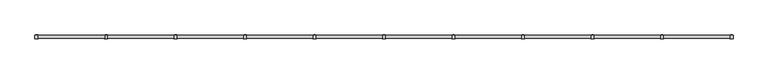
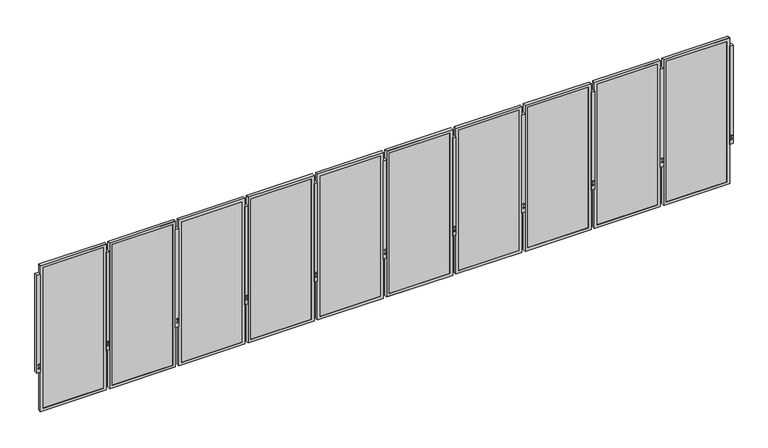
"""IFC4 building model written with IfcOpenShell, lengths in millimetres: railing geometry."""

from ifc_helpers import new_model, si_unit, frame, origin, place, context, project, spatial, polyline, outline, extrude, faceted_brep, source, transform, mapped, element, save


def railing_22421f22(model_context):
    return source(origin(), model_context, "Body", "SolidModel", [
        extrude(outline(polyline([(-3173.7233616, -34307.0313531), (-3122.9233616, -34307.0313531), (-3122.9233616, -34357.8313531), (-3173.7233616, -34357.8313531), (-3173.7233616, -34307.0313531)])), frame((0.0, 0.0, -609.6), z_axis=(0.0, 0.0, 1.0), x_axis=(1.0, 0.0, 0.0)), (0.0, 0.0, 1.0), 1524.0),
        extrude(outline(polyline([(-530.1129981, -3158.7439318), (-542.3802561, -3155.45693), (-545.667258, -3143.189672), (-536.6870019, -3134.2094158), (-524.4197439, -3137.4964177), (-521.132742, -3149.7636757), (-530.1129981, -3158.7439318)])), frame((0.0, -34359.6780409, 0.0), z_axis=(0.0, 1.0, 0.0), x_axis=(0.0, 0.0, 1.0)), (0.0, 0.0, 1.0), 54.4933756),
        extrude(outline(polyline([(-479.3129981, -3158.7439318), (-491.5802561, -3155.45693), (-494.867258, -3143.189672), (-485.8870019, -3134.2094158), (-473.6197439, -3137.4964177), (-470.332742, -3149.7636757), (-479.3129981, -3158.7439318)])), frame((0.0, -34359.6780409, 0.0), z_axis=(0.0, 1.0, 0.0), x_axis=(0.0, 0.0, 1.0)), (0.0, 0.0, 1.0), 54.4933756),
        faceted_brep([(-4140.127815, -34354.2245531, -1222.375), (-3171.752815, -34354.2245531, -1222.375), (-3171.752815, -34354.2245531, 1044.575), (-4140.127815, -34354.2245531, 1044.575), (-4098.852815, -34354.2245531, 1003.3), (-3213.027815, -34354.2245531, 1003.3), (-3213.027815, -34354.2245531, -1181.1), (-4098.852815, -34354.2245531, -1181.1), (-4098.852815, -34351.4813531, 1003.3), (-4098.852815, -34351.4813531, -1181.1), (-4140.127815, -34310.3512566, 1044.575), (-4140.127815, -34310.3512566, -1222.375), (-4136.952815, -34310.3512566, 1041.4), (-4136.952815, -34351.4813531, 1041.4), (-4136.952815, -34351.4813531, -1219.2), (-4136.952815, -34310.3512566, -1219.2), (-3213.027815, -34351.4813531, -1181.1), (-3171.752815, -34310.3512566, -1222.375), (-3174.927815, -34351.4813531, -1219.2), (-3174.927815, -34310.3512566, -1219.2), (-3213.027815, -34351.4813531, 1003.3), (-3171.752815, -34310.3512566, 1044.575), (-3174.927815, -34351.4813531, 1041.4), (-3174.927815, -34310.3512566, 1041.4)], [[[0, 1, 2, 3], [4, 5, 6, 7]], [[8, 4, 7, 9]], [[3, 10, 11, 0]], [[12, 13, 14, 15]], [[9, 7, 6, 16]], [[0, 11, 17, 1]], [[15, 14, 18, 19]], [[16, 6, 5, 20]], [[1, 17, 21, 2]], [[19, 18, 22, 23]], [[20, 5, 4, 8]], [[10, 21, 17, 11], [15, 19, 23, 12]], [[2, 21, 10, 3]], [[13, 22, 18, 14], [9, 16, 20, 8]], [[23, 22, 13, 12]]]),
        extrude(outline(polyline([(-4136.952815, -34341.9563531), (-3174.927815, -34341.9563531), (-3174.927815, -34351.4813531), (-4136.952815, -34351.4813531), (-4136.952815, -34341.9563531)])), frame((0.0, 0.0, -1219.2), z_axis=(0.0, 0.0, 1.0), x_axis=(1.0, 0.0, 0.0)), (0.0, 0.0, 1.0), 2260.6),
        extrude(outline(polyline([(-4191.3108616, -34307.0313531), (-4140.5108616, -34307.0313531), (-4140.5108616, -34357.8313531), (-4191.3108616, -34357.8313531), (-4191.3108616, -34307.0313531)])), frame((0.0, 0.0, -609.6), z_axis=(0.0, 0.0, 1.0), x_axis=(1.0, 0.0, 0.0)), (0.0, 0.0, 1.0), 1524.0),
        extrude(outline(polyline([(-530.1129981, -4176.3314318), (-542.3802561, -4173.04443), (-545.667258, -4160.777172), (-536.6870019, -4151.7969158), (-524.4197439, -4155.0839177), (-521.132742, -4167.3511757), (-530.1129981, -4176.3314318)])), frame((0.0, -34359.6780409, 0.0), z_axis=(0.0, 1.0, 0.0), x_axis=(0.0, 0.0, 1.0)), (0.0, 0.0, 1.0), 54.4933756),
        extrude(outline(polyline([(-479.3129981, -4176.3314318), (-491.5802561, -4173.04443), (-494.867258, -4160.777172), (-485.8870019, -4151.7969158), (-473.6197439, -4155.0839177), (-470.332742, -4167.3511757), (-479.3129981, -4176.3314318)])), frame((0.0, -34359.6780409, 0.0), z_axis=(0.0, 1.0, 0.0), x_axis=(0.0, 0.0, 1.0)), (0.0, 0.0, 1.0), 54.4933756),
        faceted_brep([(-5157.715315, -34354.2245531, -1222.375), (-4189.340315, -34354.2245531, -1222.375), (-4189.340315, -34354.2245531, 1044.575), (-5157.715315, -34354.2245531, 1044.575), (-5116.440315, -34354.2245531, 1003.3), (-4230.615315, -34354.2245531, 1003.3), (-4230.615315, -34354.2245531, -1181.1), (-5116.440315, -34354.2245531, -1181.1), (-5116.440315, -34351.4813531, 1003.3), (-5116.440315, -34351.4813531, -1181.1), (-5157.715315, -34310.3512566, 1044.575), (-5157.715315, -34310.3512566, -1222.375), (-5154.540315, -34310.3512566, 1041.4), (-5154.540315, -34351.4813531, 1041.4), (-5154.540315, -34351.4813531, -1219.2), (-5154.540315, -34310.3512566, -1219.2), (-4230.615315, -34351.4813531, -1181.1), (-4189.340315, -34310.3512566, -1222.375), (-4192.515315, -34351.4813531, -1219.2), (-4192.515315, -34310.3512566, -1219.2), (-4230.615315, -34351.4813531, 1003.3), (-4189.340315, -34310.3512566, 1044.575), (-4192.515315, -34351.4813531, 1041.4), (-4192.515315, -34310.3512566, 1041.4)], [[[0, 1, 2, 3], [4, 5, 6, 7]], [[8, 4, 7, 9]], [[3, 10, 11, 0]], [[12, 13, 14, 15]], [[9, 7, 6, 16]], [[0, 11, 17, 1]], [[15, 14, 18, 19]], [[16, 6, 5, 20]], [[1, 17, 21, 2]], [[19, 18, 22, 23]], [[20, 5, 4, 8]], [[10, 21, 17, 11], [15, 19, 23, 12]], [[2, 21, 10, 3]], [[13, 22, 18, 14], [9, 16, 20, 8]], [[23, 22, 13, 12]]]),
        extrude(outline(polyline([(-5154.540315, -34341.9563531), (-4192.515315, -34341.9563531), (-4192.515315, -34351.4813531), (-5154.540315, -34351.4813531), (-5154.540315, -34341.9563531)])), frame((0.0, 0.0, -1219.2), z_axis=(0.0, 0.0, 1.0), x_axis=(1.0, 0.0, 0.0)), (0.0, 0.0, 1.0), 2260.6),
        extrude(outline(polyline([(-5208.8983616, -34307.0313531), (-5158.0983616, -34307.0313531), (-5158.0983616, -34357.8313531), (-5208.8983616, -34357.8313531), (-5208.8983616, -34307.0313531)])), frame((0.0, 0.0, -609.6), z_axis=(0.0, 0.0, 1.0), x_axis=(1.0, 0.0, 0.0)), (0.0, 0.0, 1.0), 1524.0),
        extrude(outline(polyline([(-530.1129981, -5193.9189318), (-542.3802561, -5190.63193), (-545.667258, -5178.364672), (-536.6870019, -5169.3844158), (-524.4197439, -5172.6714177), (-521.132742, -5184.9386757), (-530.1129981, -5193.9189318)])), frame((0.0, -34359.6780409, 0.0), z_axis=(0.0, 1.0, 0.0), x_axis=(0.0, 0.0, 1.0)), (0.0, 0.0, 1.0), 54.4933756),
        extrude(outline(polyline([(-479.3129981, -5193.9189318), (-491.5802561, -5190.63193), (-494.867258, -5178.364672), (-485.8870019, -5169.3844158), (-473.6197439, -5172.6714177), (-470.332742, -5184.9386757), (-479.3129981, -5193.9189318)])), frame((0.0, -34359.6780409, 0.0), z_axis=(0.0, 1.0, 0.0), x_axis=(0.0, 0.0, 1.0)), (0.0, 0.0, 1.0), 54.4933756),
        faceted_brep([(-6175.302815, -34354.2245531, -1222.375), (-5206.927815, -34354.2245531, -1222.375), (-5206.927815, -34354.2245531, 1044.575), (-6175.302815, -34354.2245531, 1044.575), (-6134.027815, -34354.2245531, 1003.3), (-5248.202815, -34354.2245531, 1003.3), (-5248.202815, -34354.2245531, -1181.1), (-6134.027815, -34354.2245531, -1181.1), (-6134.027815, -34351.4813531, 1003.3), (-6134.027815, -34351.4813531, -1181.1), (-6175.302815, -34310.3512566, 1044.575), (-6175.302815, -34310.3512566, -1222.375), (-6172.127815, -34310.3512566, 1041.4), (-6172.127815, -34351.4813531, 1041.4), (-6172.127815, -34351.4813531, -1219.2), (-6172.127815, -34310.3512566, -1219.2), (-5248.202815, -34351.4813531, -1181.1), (-5206.927815, -34310.3512566, -1222.375), (-5210.102815, -34351.4813531, -1219.2), (-5210.102815, -34310.3512566, -1219.2), (-5248.202815, -34351.4813531, 1003.3), (-5206.927815, -34310.3512566, 1044.575), (-5210.102815, -34351.4813531, 1041.4), (-5210.102815, -34310.3512566, 1041.4)], [[[0, 1, 2, 3], [4, 5, 6, 7]], [[8, 4, 7, 9]], [[3, 10, 11, 0]], [[12, 13, 14, 15]], [[9, 7, 6, 16]], [[0, 11, 17, 1]], [[15, 14, 18, 19]], [[16, 6, 5, 20]], [[1, 17, 21, 2]], [[19, 18, 22, 23]], [[20, 5, 4, 8]], [[10, 21, 17, 11], [15, 19, 23, 12]], [[2, 21, 10, 3]], [[13, 22, 18, 14], [9, 16, 20, 8]], [[23, 22, 13, 12]]]),
        extrude(outline(polyline([(-6172.127815, -34341.9563531), (-5210.102815, -34341.9563531), (-5210.102815, -34351.4813531), (-6172.127815, -34351.4813531), (-6172.127815, -34341.9563531)])), frame((0.0, 0.0, -1219.2), z_axis=(0.0, 0.0, 1.0), x_axis=(1.0, 0.0, 0.0)), (0.0, 0.0, 1.0), 2260.6),
        extrude(outline(polyline([(-6226.4858616, -34307.0313531), (-6175.6858616, -34307.0313531), (-6175.6858616, -34357.8313531), (-6226.4858616, -34357.8313531), (-6226.4858616, -34307.0313531)])), frame((0.0, 0.0, -609.6), z_axis=(0.0, 0.0, 1.0), x_axis=(1.0, 0.0, 0.0)), (0.0, 0.0, 1.0), 1524.0),
        extrude(outline(polyline([(-530.1129981, -6211.5064318), (-542.3802561, -6208.21943), (-545.667258, -6195.952172), (-536.6870019, -6186.9719158), (-524.4197439, -6190.2589177), (-521.132742, -6202.5261757), (-530.1129981, -6211.5064318)])), frame((0.0, -34359.6780409, 0.0), z_axis=(0.0, 1.0, 0.0), x_axis=(0.0, 0.0, 1.0)), (0.0, 0.0, 1.0), 54.4933756),
        extrude(outline(polyline([(-479.3129981, -6211.5064318), (-491.5802561, -6208.21943), (-494.867258, -6195.952172), (-485.8870019, -6186.9719158), (-473.6197439, -6190.2589177), (-470.332742, -6202.5261757), (-479.3129981, -6211.5064318)])), frame((0.0, -34359.6780409, 0.0), z_axis=(0.0, 1.0, 0.0), x_axis=(0.0, 0.0, 1.0)), (0.0, 0.0, 1.0), 54.4933756),
        faceted_brep([(-7192.890315, -34354.2245531, -1222.375), (-6224.515315, -34354.2245531, -1222.375), (-6224.515315, -34354.2245531, 1044.575), (-7192.890315, -34354.2245531, 1044.575), (-7151.615315, -34354.2245531, 1003.3), (-6265.790315, -34354.2245531, 1003.3), (-6265.790315, -34354.2245531, -1181.1), (-7151.615315, -34354.2245531, -1181.1), (-7151.615315, -34351.4813531, 1003.3), (-7151.615315, -34351.4813531, -1181.1), (-7192.890315, -34310.3512566, 1044.575), (-7192.890315, -34310.3512566, -1222.375), (-7189.715315, -34310.3512566, 1041.4), (-7189.715315, -34351.4813531, 1041.4), (-7189.715315, -34351.4813531, -1219.2), (-7189.715315, -34310.3512566, -1219.2), (-6265.790315, -34351.4813531, -1181.1), (-6224.515315, -34310.3512566, -1222.375), (-6227.690315, -34351.4813531, -1219.2), (-6227.690315, -34310.3512566, -1219.2), (-6265.790315, -34351.4813531, 1003.3), (-6224.515315, -34310.3512566, 1044.575), (-6227.690315, -34351.4813531, 1041.4), (-6227.690315, -34310.3512566, 1041.4)], [[[0, 1, 2, 3], [4, 5, 6, 7]], [[8, 4, 7, 9]], [[3, 10, 11, 0]], [[12, 13, 14, 15]], [[9, 7, 6, 16]], [[0, 11, 17, 1]], [[15, 14, 18, 19]], [[16, 6, 5, 20]], [[1, 17, 21, 2]], [[19, 18, 22, 23]], [[20, 5, 4, 8]], [[10, 21, 17, 11], [15, 19, 23, 12]], [[2, 21, 10, 3]], [[13, 22, 18, 14], [9, 16, 20, 8]], [[23, 22, 13, 12]]]),
        extrude(outline(polyline([(-7189.715315, -34341.9563531), (-6227.690315, -34341.9563531), (-6227.690315, -34351.4813531), (-7189.715315, -34351.4813531), (-7189.715315, -34341.9563531)])), frame((0.0, 0.0, -1219.2), z_axis=(0.0, 0.0, 1.0), x_axis=(1.0, 0.0, 0.0)), (0.0, 0.0, 1.0), 2260.6),
        extrude(outline(polyline([(-7244.0733616, -34307.0313531), (-7193.2733616, -34307.0313531), (-7193.2733616, -34357.8313531), (-7244.0733616, -34357.8313531), (-7244.0733616, -34307.0313531)])), frame((0.0, 0.0, -609.6), z_axis=(0.0, 0.0, 1.0), x_axis=(1.0, 0.0, 0.0)), (0.0, 0.0, 1.0), 1524.0),
        extrude(outline(polyline([(-530.1129981, -7229.0939318), (-542.3802561, -7225.80693), (-545.667258, -7213.539672), (-536.6870019, -7204.5594158), (-524.4197439, -7207.8464177), (-521.132742, -7220.1136757), (-530.1129981, -7229.0939318)])), frame((0.0, -34359.6780409, 0.0), z_axis=(0.0, 1.0, 0.0), x_axis=(0.0, 0.0, 1.0)), (0.0, 0.0, 1.0), 54.4933756),
        extrude(outline(polyline([(-479.3129981, -7229.0939318), (-491.5802561, -7225.80693), (-494.867258, -7213.539672), (-485.8870019, -7204.5594158), (-473.6197439, -7207.8464177), (-470.332742, -7220.1136757), (-479.3129981, -7229.0939318)])), frame((0.0, -34359.6780409, 0.0), z_axis=(0.0, 1.0, 0.0), x_axis=(0.0, 0.0, 1.0)), (0.0, 0.0, 1.0), 54.4933756),
        faceted_brep([(-8210.477815, -34354.2245531, -1222.375), (-7242.102815, -34354.2245531, -1222.375), (-7242.102815, -34354.2245531, 1044.575), (-8210.477815, -34354.2245531, 1044.575), (-8169.202815, -34354.2245531, 1003.3), (-7283.377815, -34354.2245531, 1003.3), (-7283.377815, -34354.2245531, -1181.1), (-8169.202815, -34354.2245531, -1181.1), (-8169.202815, -34351.4813531, 1003.3), (-8169.202815, -34351.4813531, -1181.1), (-8210.477815, -34310.3512566, 1044.575), (-8210.477815, -34310.3512566, -1222.375), (-8207.302815, -34310.3512566, 1041.4), (-8207.302815, -34351.4813531, 1041.4), (-8207.302815, -34351.4813531, -1219.2), (-8207.302815, -34310.3512566, -1219.2), (-7283.377815, -34351.4813531, -1181.1), (-7242.102815, -34310.3512566, -1222.375), (-7245.277815, -34351.4813531, -1219.2), (-7245.277815, -34310.3512566, -1219.2), (-7283.377815, -34351.4813531, 1003.3), (-7242.102815, -34310.3512566, 1044.575), (-7245.277815, -34351.4813531, 1041.4), (-7245.277815, -34310.3512566, 1041.4)], [[[0, 1, 2, 3], [4, 5, 6, 7]], [[8, 4, 7, 9]], [[3, 10, 11, 0]], [[12, 13, 14, 15]], [[9, 7, 6, 16]], [[0, 11, 17, 1]], [[15, 14, 18, 19]], [[16, 6, 5, 20]], [[1, 17, 21, 2]], [[19, 18, 22, 23]], [[20, 5, 4, 8]], [[10, 21, 17, 11], [15, 19, 23, 12]], [[2, 21, 10, 3]], [[13, 22, 18, 14], [9, 16, 20, 8]], [[23, 22, 13, 12]]]),
        extrude(outline(polyline([(-8207.302815, -34341.9563531), (-7245.277815, -34341.9563531), (-7245.277815, -34351.4813531), (-8207.302815, -34351.4813531), (-8207.302815, -34341.9563531)])), frame((0.0, 0.0, -1219.2), z_axis=(0.0, 0.0, 1.0), x_axis=(1.0, 0.0, 0.0)), (0.0, 0.0, 1.0), 2260.6),
        extrude(outline(polyline([(-8261.6608616, -34307.0313531), (-8210.8608616, -34307.0313531), (-8210.8608616, -34357.8313531), (-8261.6608616, -34357.8313531), (-8261.6608616, -34307.0313531)])), frame((0.0, 0.0, -609.6), z_axis=(0.0, 0.0, 1.0), x_axis=(1.0, 0.0, 0.0)), (0.0, 0.0, 1.0), 1524.0),
        extrude(outline(polyline([(-530.1129981, -8246.6814318), (-542.3802561, -8243.39443), (-545.667258, -8231.127172), (-536.6870019, -8222.1469158), (-524.4197439, -8225.4339177), (-521.132742, -8237.7011757), (-530.1129981, -8246.6814318)])), frame((0.0, -34359.6780409, 0.0), z_axis=(0.0, 1.0, 0.0), x_axis=(0.0, 0.0, 1.0)), (0.0, 0.0, 1.0), 54.4933756),
        extrude(outline(polyline([(-479.3129981, -8246.6814318), (-491.5802561, -8243.39443), (-494.867258, -8231.127172), (-485.8870019, -8222.1469158), (-473.6197439, -8225.4339177), (-470.332742, -8237.7011757), (-479.3129981, -8246.6814318)])), frame((0.0, -34359.6780409, 0.0), z_axis=(0.0, 1.0, 0.0), x_axis=(0.0, 0.0, 1.0)), (0.0, 0.0, 1.0), 54.4933756),
        faceted_brep([(-9228.065315, -34354.2245531, -1222.375), (-8259.690315, -34354.2245531, -1222.375), (-8259.690315, -34354.2245531, 1044.575), (-9228.065315, -34354.2245531, 1044.575), (-9186.790315, -34354.2245531, 1003.3), (-8300.965315, -34354.2245531, 1003.3), (-8300.965315, -34354.2245531, -1181.1), (-9186.790315, -34354.2245531, -1181.1), (-9186.790315, -34351.4813531, 1003.3), (-9186.790315, -34351.4813531, -1181.1), (-9228.065315, -34310.3512566, 1044.575), (-9228.065315, -34310.3512566, -1222.375), (-9224.890315, -34310.3512566, 1041.4), (-9224.890315, -34351.4813531, 1041.4), (-9224.890315, -34351.4813531, -1219.2), (-9224.890315, -34310.3512566, -1219.2), (-8300.965315, -34351.4813531, -1181.1), (-8259.690315, -34310.3512566, -1222.375), (-8262.865315, -34351.4813531, -1219.2), (-8262.865315, -34310.3512566, -1219.2), (-8300.965315, -34351.4813531, 1003.3), (-8259.690315, -34310.3512566, 1044.575), (-8262.865315, -34351.4813531, 1041.4), (-8262.865315, -34310.3512566, 1041.4)], [[[0, 1, 2, 3], [4, 5, 6, 7]], [[8, 4, 7, 9]], [[3, 10, 11, 0]], [[12, 13, 14, 15]], [[9, 7, 6, 16]], [[0, 11, 17, 1]], [[15, 14, 18, 19]], [[16, 6, 5, 20]], [[1, 17, 21, 2]], [[19, 18, 22, 23]], [[20, 5, 4, 8]], [[10, 21, 17, 11], [15, 19, 23, 12]], [[2, 21, 10, 3]], [[13, 22, 18, 14], [9, 16, 20, 8]], [[23, 22, 13, 12]]]),
        extrude(outline(polyline([(-9224.890315, -34341.9563531), (-8262.865315, -34341.9563531), (-8262.865315, -34351.4813531), (-9224.890315, -34351.4813531), (-9224.890315, -34341.9563531)])), frame((0.0, 0.0, -1219.2), z_axis=(0.0, 0.0, 1.0), x_axis=(1.0, 0.0, 0.0)), (0.0, 0.0, 1.0), 2260.6),
        extrude(outline(polyline([(-9279.2483616, -34307.0313531), (-9228.4483616, -34307.0313531), (-9228.4483616, -34357.8313531), (-9279.2483616, -34357.8313531), (-9279.2483616, -34307.0313531)])), frame((0.0, 0.0, -609.6), z_axis=(0.0, 0.0, 1.0), x_axis=(1.0, 0.0, 0.0)), (0.0, 0.0, 1.0), 1524.0),
        extrude(outline(polyline([(-530.1129981, -9264.2689318), (-542.3802561, -9260.98193), (-545.667258, -9248.714672), (-536.6870019, -9239.7344158), (-524.4197439, -9243.0214177), (-521.132742, -9255.2886757), (-530.1129981, -9264.2689318)])), frame((0.0, -34359.6780409, 0.0), z_axis=(0.0, 1.0, 0.0), x_axis=(0.0, 0.0, 1.0)), (0.0, 0.0, 1.0), 54.4933756),
        extrude(outline(polyline([(-479.3129981, -9264.2689318), (-491.5802561, -9260.98193), (-494.867258, -9248.714672), (-485.8870019, -9239.7344158), (-473.6197439, -9243.0214177), (-470.332742, -9255.2886757), (-479.3129981, -9264.2689318)])), frame((0.0, -34359.6780409, 0.0), z_axis=(0.0, 1.0, 0.0), x_axis=(0.0, 0.0, 1.0)), (0.0, 0.0, 1.0), 54.4933756),
        faceted_brep([(-10245.652815, -34354.2245531, -1222.375), (-9277.277815, -34354.2245531, -1222.375), (-9277.277815, -34354.2245531, 1044.575), (-10245.652815, -34354.2245531, 1044.575), (-10204.377815, -34354.2245531, 1003.3), (-9318.552815, -34354.2245531, 1003.3), (-9318.552815, -34354.2245531, -1181.1), (-10204.377815, -34354.2245531, -1181.1), (-10204.377815, -34351.4813531, 1003.3), (-10204.377815, -34351.4813531, -1181.1), (-10245.652815, -34310.3512566, 1044.575), (-10245.652815, -34310.3512566, -1222.375), (-10242.477815, -34310.3512566, 1041.4), (-10242.477815, -34351.4813531, 1041.4), (-10242.477815, -34351.4813531, -1219.2), (-10242.477815, -34310.3512566, -1219.2), (-9318.552815, -34351.4813531, -1181.1), (-9277.277815, -34310.3512566, -1222.375), (-9280.452815, -34351.4813531, -1219.2), (-9280.452815, -34310.3512566, -1219.2), (-9318.552815, -34351.4813531, 1003.3), (-9277.277815, -34310.3512566, 1044.575), (-9280.452815, -34351.4813531, 1041.4), (-9280.452815, -34310.3512566, 1041.4)], [[[0, 1, 2, 3], [4, 5, 6, 7]], [[8, 4, 7, 9]], [[3, 10, 11, 0]], [[12, 13, 14, 15]], [[9, 7, 6, 16]], [[0, 11, 17, 1]], [[15, 14, 18, 19]], [[16, 6, 5, 20]], [[1, 17, 21, 2]], [[19, 18, 22, 23]], [[20, 5, 4, 8]], [[10, 21, 17, 11], [15, 19, 23, 12]], [[2, 21, 10, 3]], [[13, 22, 18, 14], [9, 16, 20, 8]], [[23, 22, 13, 12]]]),
        extrude(outline(polyline([(-10242.477815, -34341.9563531), (-9280.452815, -34341.9563531), (-9280.452815, -34351.4813531), (-10242.477815, -34351.4813531), (-10242.477815, -34341.9563531)])), frame((0.0, 0.0, -1219.2), z_axis=(0.0, 0.0, 1.0), x_axis=(1.0, 0.0, 0.0)), (0.0, 0.0, 1.0), 2260.6),
        extrude(outline(polyline([(-10296.8358616, -34307.0313531), (-10246.0358616, -34307.0313531), (-10246.0358616, -34357.8313531), (-10296.8358616, -34357.8313531), (-10296.8358616, -34307.0313531)])), frame((0.0, 0.0, -609.6), z_axis=(0.0, 0.0, 1.0), x_axis=(1.0, 0.0, 0.0)), (0.0, 0.0, 1.0), 1524.0),
        extrude(outline(polyline([(-530.1129981, -10281.8564318), (-542.3802561, -10278.56943), (-545.667258, -10266.302172), (-536.6870019, -10257.3219158), (-524.4197439, -10260.6089177), (-521.132742, -10272.8761757), (-530.1129981, -10281.8564318)])), frame((0.0, -34359.6780409, 0.0), z_axis=(0.0, 1.0, 0.0), x_axis=(0.0, 0.0, 1.0)), (0.0, 0.0, 1.0), 54.4933756),
        extrude(outline(polyline([(-479.3129981, -10281.8564318), (-491.5802561, -10278.56943), (-494.867258, -10266.302172), (-485.8870019, -10257.3219158), (-473.6197439, -10260.6089177), (-470.332742, -10272.8761757), (-479.3129981, -10281.8564318)])), frame((0.0, -34359.6780409, 0.0), z_axis=(0.0, 1.0, 0.0), x_axis=(0.0, 0.0, 1.0)), (0.0, 0.0, 1.0), 54.4933756),
        faceted_brep([(-11263.240315, -34354.2245531, -1222.375), (-10294.865315, -34354.2245531, -1222.375), (-10294.865315, -34354.2245531, 1044.575), (-11263.240315, -34354.2245531, 1044.575), (-11221.965315, -34354.2245531, 1003.3), (-10336.140315, -34354.2245531, 1003.3), (-10336.140315, -34354.2245531, -1181.1), (-11221.965315, -34354.2245531, -1181.1), (-11221.965315, -34351.4813531, 1003.3), (-11221.965315, -34351.4813531, -1181.1), (-11263.240315, -34310.3512566, 1044.575), (-11263.240315, -34310.3512566, -1222.375), (-11260.065315, -34310.3512566, 1041.4), (-11260.065315, -34351.4813531, 1041.4), (-11260.065315, -34351.4813531, -1219.2), (-11260.065315, -34310.3512566, -1219.2), (-10336.140315, -34351.4813531, -1181.1), (-10294.865315, -34310.3512566, -1222.375), (-10298.040315, -34351.4813531, -1219.2), (-10298.040315, -34310.3512566, -1219.2), (-10336.140315, -34351.4813531, 1003.3), (-10294.865315, -34310.3512566, 1044.575), (-10298.040315, -34351.4813531, 1041.4), (-10298.040315, -34310.3512566, 1041.4)], [[[0, 1, 2, 3], [4, 5, 6, 7]], [[8, 4, 7, 9]], [[3, 10, 11, 0]], [[12, 13, 14, 15]], [[9, 7, 6, 16]], [[0, 11, 17, 1]], [[15, 14, 18, 19]], [[16, 6, 5, 20]], [[1, 17, 21, 2]], [[19, 18, 22, 23]], [[20, 5, 4, 8]], [[10, 21, 17, 11], [15, 19, 23, 12]], [[2, 21, 10, 3]], [[13, 22, 18, 14], [9, 16, 20, 8]], [[23, 22, 13, 12]]]),
        extrude(outline(polyline([(-11260.065315, -34341.9563531), (-10298.040315, -34341.9563531), (-10298.040315, -34351.4813531), (-11260.065315, -34351.4813531), (-11260.065315, -34341.9563531)])), frame((0.0, 0.0, -1219.2), z_axis=(0.0, 0.0, 1.0), x_axis=(1.0, 0.0, 0.0)), (0.0, 0.0, 1.0), 2260.6),
        extrude(outline(polyline([(-11314.4233616, -34307.0313531), (-11263.6233616, -34307.0313531), (-11263.6233616, -34357.8313531), (-11314.4233616, -34357.8313531), (-11314.4233616, -34307.0313531)])), frame((0.0, 0.0, -609.6), z_axis=(0.0, 0.0, 1.0), x_axis=(1.0, 0.0, 0.0)), (0.0, 0.0, 1.0), 1524.0),
        extrude(outline(polyline([(-530.1129981, -11299.4439318), (-542.3802561, -11296.15693), (-545.667258, -11283.889672), (-536.6870019, -11274.9094158), (-524.4197439, -11278.1964177), (-521.132742, -11290.4636757), (-530.1129981, -11299.4439318)])), frame((0.0, -34359.6780409, 0.0), z_axis=(0.0, 1.0, 0.0), x_axis=(0.0, 0.0, 1.0)), (0.0, 0.0, 1.0), 54.4933756),
        extrude(outline(polyline([(-479.3129981, -11299.4439318), (-491.5802561, -11296.15693), (-494.867258, -11283.889672), (-485.8870019, -11274.9094158), (-473.6197439, -11278.1964177), (-470.332742, -11290.4636757), (-479.3129981, -11299.4439318)])), frame((0.0, -34359.6780409, 0.0), z_axis=(0.0, 1.0, 0.0), x_axis=(0.0, 0.0, 1.0)), (0.0, 0.0, 1.0), 54.4933756),
        faceted_brep([(-12280.827815, -34354.2245531, -1222.375), (-11312.452815, -34354.2245531, -1222.375), (-11312.452815, -34354.2245531, 1044.575), (-12280.827815, -34354.2245531, 1044.575), (-12239.552815, -34354.2245531, 1003.3), (-11353.727815, -34354.2245531, 1003.3), (-11353.727815, -34354.2245531, -1181.1), (-12239.552815, -34354.2245531, -1181.1), (-12239.552815, -34351.4813531, 1003.3), (-12239.552815, -34351.4813531, -1181.1), (-12280.827815, -34310.3512566, 1044.575), (-12280.827815, -34310.3512566, -1222.375), (-12277.652815, -34310.3512566, 1041.4), (-12277.652815, -34351.4813531, 1041.4), (-12277.652815, -34351.4813531, -1219.2), (-12277.652815, -34310.3512566, -1219.2), (-11353.727815, -34351.4813531, -1181.1), (-11312.452815, -34310.3512566, -1222.375), (-11315.627815, -34351.4813531, -1219.2), (-11315.627815, -34310.3512566, -1219.2), (-11353.727815, -34351.4813531, 1003.3), (-11312.452815, -34310.3512566, 1044.575), (-11315.627815, -34351.4813531, 1041.4), (-11315.627815, -34310.3512566, 1041.4)], [[[0, 1, 2, 3], [4, 5, 6, 7]], [[8, 4, 7, 9]], [[3, 10, 11, 0]], [[12, 13, 14, 15]], [[9, 7, 6, 16]], [[0, 11, 17, 1]], [[15, 14, 18, 19]], [[16, 6, 5, 20]], [[1, 17, 21, 2]], [[19, 18, 22, 23]], [[20, 5, 4, 8]], [[10, 21, 17, 11], [15, 19, 23, 12]], [[2, 21, 10, 3]], [[13, 22, 18, 14], [9, 16, 20, 8]], [[23, 22, 13, 12]]]),
        extrude(outline(polyline([(-12277.652815, -34341.9563531), (-11315.627815, -34341.9563531), (-11315.627815, -34351.4813531), (-12277.652815, -34351.4813531), (-12277.652815, -34341.9563531)])), frame((0.0, 0.0, -1219.2), z_axis=(0.0, 0.0, 1.0), x_axis=(1.0, 0.0, 0.0)), (0.0, 0.0, 1.0), 2260.6),
        extrude(outline(polyline([(-12332.0108616, -34307.0313531), (-12281.2108616, -34307.0313531), (-12281.2108616, -34357.8313531), (-12332.0108616, -34357.8313531), (-12332.0108616, -34307.0313531)])), frame((0.0, 0.0, -609.6), z_axis=(0.0, 0.0, 1.0), x_axis=(1.0, 0.0, 0.0)), (0.0, 0.0, 1.0), 1524.0),
        extrude(outline(polyline([(-530.1129981, -12317.0314318), (-542.3802561, -12313.74443), (-545.667258, -12301.477172), (-536.6870019, -12292.4969158), (-524.4197439, -12295.7839177), (-521.132742, -12308.0511757), (-530.1129981, -12317.0314318)])), frame((0.0, -34359.6780409, 0.0), z_axis=(0.0, 1.0, 0.0), x_axis=(0.0, 0.0, 1.0)), (0.0, 0.0, 1.0), 54.4933756),
        extrude(outline(polyline([(-479.3129981, -12317.0314318), (-491.5802561, -12313.74443), (-494.867258, -12301.477172), (-485.8870019, -12292.4969158), (-473.6197439, -12295.7839177), (-470.332742, -12308.0511757), (-479.3129981, -12317.0314318)])), frame((0.0, -34359.6780409, 0.0), z_axis=(0.0, 1.0, 0.0), x_axis=(0.0, 0.0, 1.0)), (0.0, 0.0, 1.0), 54.4933756),
        faceted_brep([(-13298.415315, -34354.2245531, -1222.375), (-12330.040315, -34354.2245531, -1222.375), (-12330.040315, -34354.2245531, 1044.575), (-13298.415315, -34354.2245531, 1044.575), (-13257.140315, -34354.2245531, 1003.3), (-12371.315315, -34354.2245531, 1003.3), (-12371.315315, -34354.2245531, -1181.1), (-13257.140315, -34354.2245531, -1181.1), (-13257.140315, -34351.4813531, 1003.3), (-13257.140315, -34351.4813531, -1181.1), (-13298.415315, -34310.3512566, 1044.575), (-13298.415315, -34310.3512566, -1222.375), (-13295.240315, -34310.3512566, 1041.4), (-13295.240315, -34351.4813531, 1041.4), (-13295.240315, -34351.4813531, -1219.2), (-13295.240315, -34310.3512566, -1219.2), (-12371.315315, -34351.4813531, -1181.1), (-12330.040315, -34310.3512566, -1222.375), (-12333.215315, -34351.4813531, -1219.2), (-12333.215315, -34310.3512566, -1219.2), (-12371.315315, -34351.4813531, 1003.3), (-12330.040315, -34310.3512566, 1044.575), (-12333.215315, -34351.4813531, 1041.4), (-12333.215315, -34310.3512566, 1041.4)], [[[0, 1, 2, 3], [4, 5, 6, 7]], [[8, 4, 7, 9]], [[3, 10, 11, 0]], [[12, 13, 14, 15]], [[9, 7, 6, 16]], [[0, 11, 17, 1]], [[15, 14, 18, 19]], [[16, 6, 5, 20]], [[1, 17, 21, 2]], [[19, 18, 22, 23]], [[20, 5, 4, 8]], [[10, 21, 17, 11], [15, 19, 23, 12]], [[2, 21, 10, 3]], [[13, 22, 18, 14], [9, 16, 20, 8]], [[23, 22, 13, 12]]]),
        extrude(outline(polyline([(-13295.240315, -34341.9563531), (-12333.215315, -34341.9563531), (-12333.215315, -34351.4813531), (-13295.240315, -34351.4813531), (-13295.240315, -34341.9563531)])), frame((0.0, 0.0, -1219.2), z_axis=(0.0, 0.0, 1.0), x_axis=(1.0, 0.0, 0.0)), (0.0, 0.0, 1.0), 2260.6),
        extrude(outline(polyline([(-13349.5983616, -34307.0313531), (-13298.7983616, -34307.0313531), (-13298.7983616, -34357.8313531), (-13349.5983616, -34357.8313531), (-13349.5983616, -34307.0313531)])), frame((0.0, 0.0, -609.6), z_axis=(0.0, 0.0, 1.0), x_axis=(1.0, 0.0, 0.0)), (0.0, 0.0, 1.0), 1524.0),
        extrude(outline(polyline([(-530.1129981, -13334.6189318), (-542.3802561, -13331.33193), (-545.667258, -13319.064672), (-536.6870019, -13310.0844158), (-524.4197439, -13313.3714177), (-521.132742, -13325.6386757), (-530.1129981, -13334.6189318)])), frame((0.0, -34359.6780409, 0.0), z_axis=(0.0, 1.0, 0.0), x_axis=(0.0, 0.0, 1.0)), (0.0, 0.0, 1.0), 54.4933756),
        extrude(outline(polyline([(-479.3129981, -13334.6189318), (-491.5802561, -13331.33193), (-494.867258, -13319.064672), (-485.8870019, -13310.0844158), (-473.6197439, -13313.3714177), (-470.332742, -13325.6386757), (-479.3129981, -13334.6189318)])), frame((0.0, -34359.6780409, 0.0), z_axis=(0.0, 1.0, 0.0), x_axis=(0.0, 0.0, 1.0)), (0.0, 0.0, 1.0), 54.4933756),
    ])


if __name__ == "__main__":
    model = new_model("IFC4")
    model_context = context("Model", 3, world=origin())
    ifc_project = project(units=[si_unit("LENGTHUNIT", "METRE", prefix="MILLI")], contexts=[model_context])
    site = spatial("IfcSite", under=ifc_project)
    building = spatial("IfcBuilding", under=site)
    placement = place(None, origin())
    railing_shape = railing_22421f22(model_context)
    element("IfcRailing", 1, ObjectType="Railing - Amico Architectural - Expanded Mesh Railing - 3/4\" Circle - 1\" Staggered", at=placement, inside=building, context=model_context, shape_type="MappedRepresentation", body=[
        mapped(railing_shape, transform((0.0, 0.0, 0.0), x_axis=(1.0, 0.0, 0.0), y_axis=(0.0, 1.0, 0.0), z_axis=(0.0, 0.0, 1.0))),
    ])
    save(model, "model.ifc")
